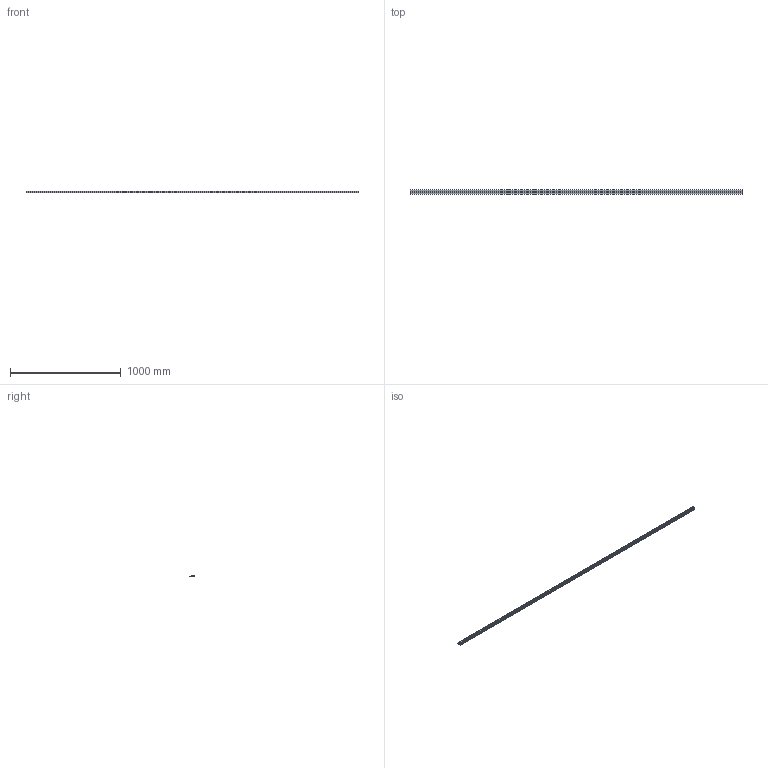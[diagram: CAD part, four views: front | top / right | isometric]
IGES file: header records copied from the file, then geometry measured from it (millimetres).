
Start section: Data from Parasolid IGES Translator 20.0.26, Copyright(c) 2006 Siemens P LM Software. All Rights Reserved.
Global section: file name: 9298804.igs; native system: By Siemens PLM Incorporated; preprocessor: XPlus GENERIC/IGES 20.0.26; author: Noname; organization: Noname; date: 20210826.182519; units: millimetre
Bounding box: 3000 x 38.8 x 18 mm (x, y, z)
Surface area: 587381.6 mm2 (no closed solid volume)
Topology: 0 solids, 0 shells, 45 faces, 258 edges, 258 vertices
Faces by surface type: extrusion 45
